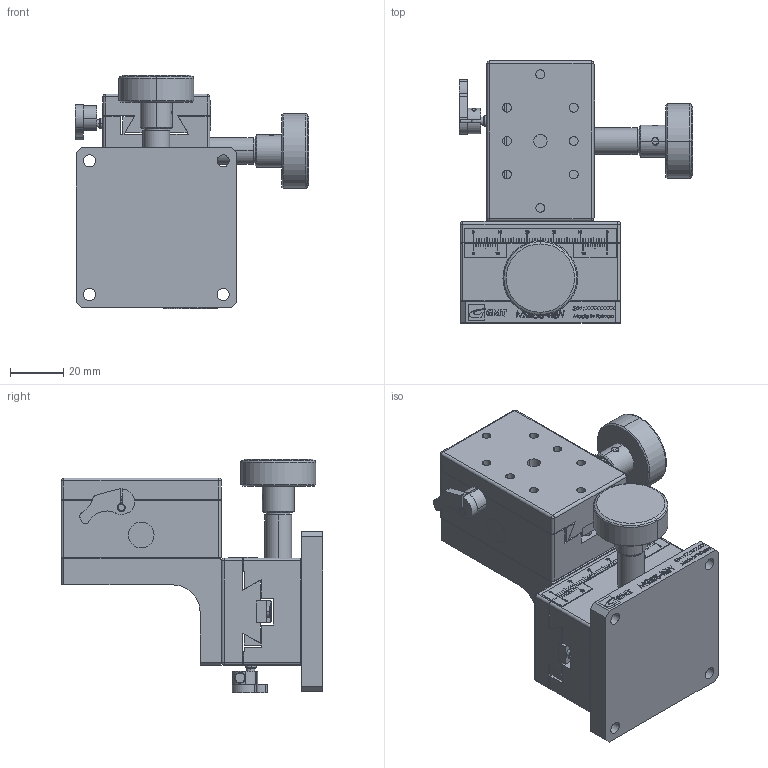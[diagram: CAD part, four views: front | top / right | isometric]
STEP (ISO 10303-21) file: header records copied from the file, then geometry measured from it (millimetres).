
FILE_DESCRIPTION (( 'STEP AP203' ), '1' );
FILE_NAME ('MCM-46L-(«¬¿ý).STEP', '2013-10-05T02:37:40', ( '' ), ( '' ), 'SwSTEP 2.0', 'SolidWorks 2013', '' );
FILE_SCHEMA (( 'CONFIG_CONTROL_DESIGN' ));
Products named in the file (5): Group1^MCM-46L-(型錄); Group3^MCM-46L-(型錄); Group4^MCM-46L-(型錄); Group2^MCM-46L-(型錄); MCM-46L-(型錄)
Assembly tree (4 placements, depth 2):
  MCM-46L-(型錄)
    Group1^MCM-46L-(型錄)
    Group3^MCM-46L-(型錄)
    Group4^MCM-46L-(型錄)
    Group2^MCM-46L-(型錄)
Bounding box: 87.3 x 98 x 87.3 mm (x, y, z)
Volume: 219345.5 mm3; surface area: 58211.6 mm2
Topology: 4 solids, 4 shells, 2627 faces, 7099 edges, 4647 vertices
Faces by surface type: plane 1789, bspline 462, cylinder 238, cone 104, torus 18, sphere 16
Entity records: 109207 total; most frequent: CARTESIAN_POINT 45463, ORIENTED_EDGE 14166, DIRECTION 11136, EDGE_CURVE 7083, LINE 5320, VECTOR 5320, VERTEX_POINT 4647, AXIS2_PLACEMENT_3D 2908
